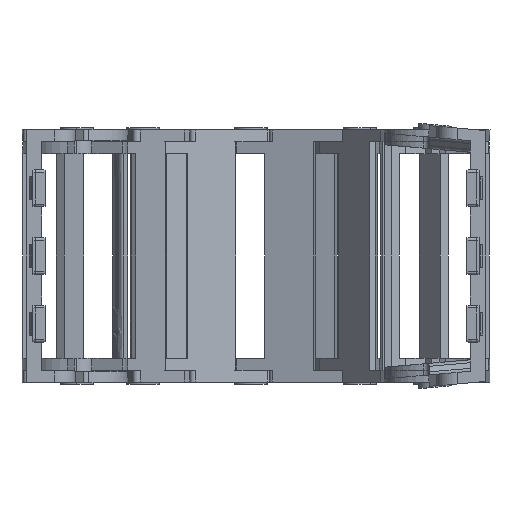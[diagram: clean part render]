
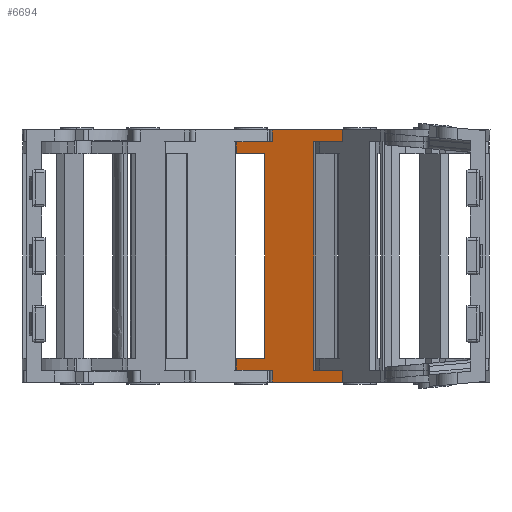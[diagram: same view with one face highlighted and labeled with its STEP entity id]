
A CAD part, left-side view. The second image highlights one B-rep face of the part: STEP entity #6694.
In plain terms, the highlighted planar face has unit normal (-0.959, 0.284, 0) as drawn and (0, -1, 0) by its records, which use the part's own axes.
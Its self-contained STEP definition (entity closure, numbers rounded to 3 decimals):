
#541=DIRECTION('',(-1.,0.,0.));
#542=VECTOR('',#541,4.4);
#543=CARTESIAN_POINT('',(-4.,-8.,-22.6));
#544=LINE('',#543,#542);
#599=DIRECTION('',(1.,0.,0.));
#600=VECTOR('',#599,4.4);
#601=CARTESIAN_POINT('',(-8.4,-8.,7.6));
#602=LINE('',#601,#600);
#840=DIRECTION('',(-1.,0.,0.));
#841=VECTOR('',#840,5.519);
#842=CARTESIAN_POINT('',(-2.881,-8.,9.35));
#843=LINE('',#842,#841);
#899=DIRECTION('',(1.,0.,0.));
#900=VECTOR('',#899,5.519);
#901=CARTESIAN_POINT('',(-8.4,-8.,-24.35));
#902=LINE('',#901,#900);
#2060=DIRECTION('',(1.,0.,0.));
#2061=VECTOR('',#2060,11.281);
#2062=CARTESIAN_POINT('',(-2.881,-8.,-26.1));
#2063=LINE('',#2062,#2061);
#2129=DIRECTION('',(-1.,0.,0.));
#2130=VECTOR('',#2129,4.9);
#2131=CARTESIAN_POINT('',(8.4,-8.,-24.35));
#2132=LINE('',#2131,#2130);
#2348=DIRECTION('',(1.,0.,0.));
#2349=VECTOR('',#2348,4.9);
#2350=CARTESIAN_POINT('',(3.5,-8.,9.35));
#2351=LINE('',#2350,#2349);
#2409=DIRECTION('',(-1.,0.,0.));
#2410=VECTOR('',#2409,11.281);
#2411=CARTESIAN_POINT('',(8.4,-8.,11.1));
#2412=LINE('',#2411,#2410);
#2483=DIRECTION('',(0.,0.,1.));
#2484=VECTOR('',#2483,1.75);
#2485=CARTESIAN_POINT('',(-8.4,-8.,7.6));
#2486=LINE('',#2485,#2484);
#2490=DIRECTION('',(0.,0.,-1.));
#2491=VECTOR('',#2490,1.75);
#2492=CARTESIAN_POINT('',(8.4,-8.,11.1));
#2493=LINE('',#2492,#2491);
#2497=DIRECTION('',(0.,0.,1.));
#2498=VECTOR('',#2497,1.75);
#2499=CARTESIAN_POINT('',(-2.881,-8.,-26.1));
#2500=LINE('',#2499,#2498);
#2504=DIRECTION('',(0.,0.,1.));
#2505=VECTOR('',#2504,1.75);
#2506=CARTESIAN_POINT('',(-8.4,-8.,-24.35));
#2507=LINE('',#2506,#2505);
#2511=DIRECTION('',(0.,0.,-1.));
#2512=VECTOR('',#2511,30.2);
#2513=CARTESIAN_POINT('',(-4.,-8.,7.6));
#2514=LINE('',#2513,#2512);
#2546=DIRECTION('',(0.,0.,-1.));
#2547=VECTOR('',#2546,1.75);
#2548=CARTESIAN_POINT('',(-2.881,-8.,11.1));
#2549=LINE('',#2548,#2547);
#2619=DIRECTION('',(0.,0.,1.));
#2620=VECTOR('',#2619,33.7);
#2621=CARTESIAN_POINT('',(3.5,-8.,-24.35));
#2622=LINE('',#2621,#2620);
#2626=DIRECTION('',(0.,0.,1.));
#2627=VECTOR('',#2626,1.75);
#2628=CARTESIAN_POINT('',(8.4,-8.,-26.1));
#2629=LINE('',#2628,#2627);
#4626=CARTESIAN_POINT('',(-2.881,-8.,-24.35));
#4627=VERTEX_POINT('',#4626);
#4632=CARTESIAN_POINT('',(-8.4,-8.,-24.35));
#4633=CARTESIAN_POINT('',(-8.4,-8.,-22.6));
#4634=VERTEX_POINT('',#4632);
#4635=VERTEX_POINT('',#4633);
#4642=CARTESIAN_POINT('',(-8.4,-8.,7.6));
#4643=CARTESIAN_POINT('',(-8.4,-8.,9.35));
#4644=VERTEX_POINT('',#4642);
#4645=VERTEX_POINT('',#4643);
#4648=CARTESIAN_POINT('',(-2.881,-8.,9.35));
#4649=VERTEX_POINT('',#4648);
#4667=CARTESIAN_POINT('',(8.4,-8.,-24.35));
#4669=VERTEX_POINT('',#4667);
#4680=CARTESIAN_POINT('',(3.5,-8.,-24.35));
#4681=VERTEX_POINT('',#4680);
#4682=CARTESIAN_POINT('',(3.5,-8.,9.35));
#4683=VERTEX_POINT('',#4682);
#4684=CARTESIAN_POINT('',(8.4,-8.,9.35));
#4685=VERTEX_POINT('',#4684);
#5076=CARTESIAN_POINT('',(-2.881,-8.,-26.1));
#5077=VERTEX_POINT('',#5076);
#5078=CARTESIAN_POINT('',(8.4,-8.,-26.1));
#5079=VERTEX_POINT('',#5078);
#5086=CARTESIAN_POINT('',(8.4,-8.,11.1));
#5087=CARTESIAN_POINT('',(-2.881,-8.,11.1));
#5088=VERTEX_POINT('',#5086);
#5089=VERTEX_POINT('',#5087);
#5112=CARTESIAN_POINT('',(-4.,-8.,7.6));
#5114=VERTEX_POINT('',#5112);
#5117=CARTESIAN_POINT('',(-4.,-8.,-22.6));
#5119=VERTEX_POINT('',#5117);
#6666=CARTESIAN_POINT('',(-8.4,-8.,-25.6));
#6667=DIRECTION('',(0.,-1.,0.));
#6668=DIRECTION('',(1.,0.,0.));
#6669=AXIS2_PLACEMENT_3D('',#6666,#6667,#6668);
#6670=PLANE('',#6669);
#6671=ORIENTED_EDGE('',*,*,#5335,.F.);
#6673=ORIENTED_EDGE('',*,*,#6672,.F.);
#6674=ORIENTED_EDGE('',*,*,#5402,.F.);
#6675=ORIENTED_EDGE('',*,*,#5619,.T.);
#6676=ORIENTED_EDGE('',*,*,#5675,.F.);
#6678=ORIENTED_EDGE('',*,*,#6677,.F.);
#6679=ORIENTED_EDGE('',*,*,#6577,.F.);
#6680=ORIENTED_EDGE('',*,*,#6651,.T.);
#6681=ORIENTED_EDGE('',*,*,#6506,.F.);
#6683=ORIENTED_EDGE('',*,*,#6682,.F.);
#6684=ORIENTED_EDGE('',*,*,#6326,.F.);
#6686=ORIENTED_EDGE('',*,*,#6685,.F.);
#6687=ORIENTED_EDGE('',*,*,#6053,.F.);
#6689=ORIENTED_EDGE('',*,*,#6688,.T.);
#6690=ORIENTED_EDGE('',*,*,#5745,.F.);
#6691=ORIENTED_EDGE('',*,*,#5802,.T.);
#6692=EDGE_LOOP('',(#6671,#6673,#6674,#6675,#6676,#6678,#6679,#6680,#6681,#6683,
#6684,#6686,#6687,#6689,#6690,#6691));
#6693=FACE_OUTER_BOUND('',#6692,.F.);
#6694=ADVANCED_FACE('',(#6693),#6670,.T.);
#5335=EDGE_CURVE('',#5119,#4635,#544,.T.);
#5402=EDGE_CURVE('',#4644,#5114,#602,.T.);
#5619=EDGE_CURVE('',#4644,#4645,#2486,.T.);
#5675=EDGE_CURVE('',#4649,#4645,#843,.T.);
#5745=EDGE_CURVE('',#4634,#4627,#902,.T.);
#5802=EDGE_CURVE('',#4634,#4635,#2507,.T.);
#6053=EDGE_CURVE('',#5077,#5079,#2063,.T.);
#6326=EDGE_CURVE('',#4669,#4681,#2132,.T.);
#6506=EDGE_CURVE('',#4683,#4685,#2351,.T.);
#6577=EDGE_CURVE('',#5088,#5089,#2412,.T.);
#6651=EDGE_CURVE('',#5088,#4685,#2493,.T.);
#6672=EDGE_CURVE('',#5114,#5119,#2514,.T.);
#6677=EDGE_CURVE('',#5089,#4649,#2549,.T.);
#6682=EDGE_CURVE('',#4681,#4683,#2622,.T.);
#6685=EDGE_CURVE('',#5079,#4669,#2629,.T.);
#6688=EDGE_CURVE('',#5077,#4627,#2500,.T.);
